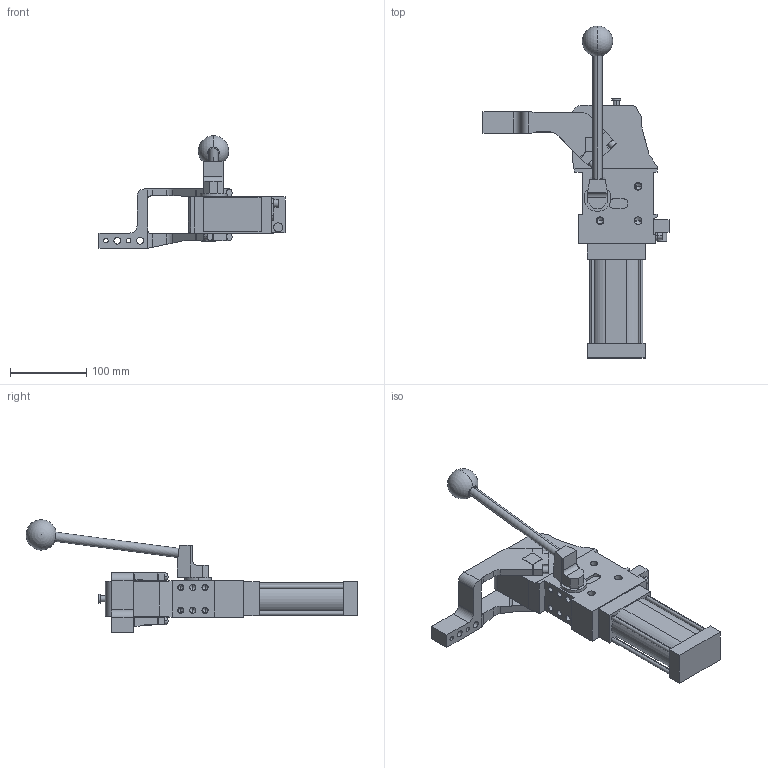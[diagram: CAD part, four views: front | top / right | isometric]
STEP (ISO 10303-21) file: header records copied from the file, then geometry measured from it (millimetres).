
FILE_DESCRIPTION (( 'STEP AP214' ), '1' );
FILE_NAME ('cplm50lav1di1g_135.STEP', '2023-01-26T13:15:27', ( '' ), ( '' ), 'SwSTEP 2.0', 'SolidWorks 2022', '' );
FILE_SCHEMA (( 'AUTOMOTIVE_DESIGN' ));
Length unit declared in the file: millimetre
Products named in the file (5): comando_manuale_cplm_50; blocchetto_VEP_0; leva_dx_offset_15_cpl50; cplm50lav1di1g_135; meccanica_cplm_50
Assembly tree (4 placements, depth 2):
  cplm50lav1di1g_135
    meccanica_cplm_50
    blocchetto_VEP_0
    leva_dx_offset_15_cpl50
    comando_manuale_cplm_50
Bounding box: 244.5 x 436.23 x 148 mm (x, y, z)
Volume: 1469960 mm3; surface area: 181399.7 mm2
Topology: 4 solids, 4 shells, 431 faces, 1108 edges, 691 vertices
Faces by surface type: plane 212, cylinder 167, cone 50, sphere 2
Entity records: 14371 total; most frequent: DIRECTION 2277, CARTESIAN_POINT 2271, ORIENTED_EDGE 2114, EDGE_CURVE 1057, AXIS2_PLACEMENT_3D 792, LINE 693, VECTOR 693, VERTEX_POINT 688
